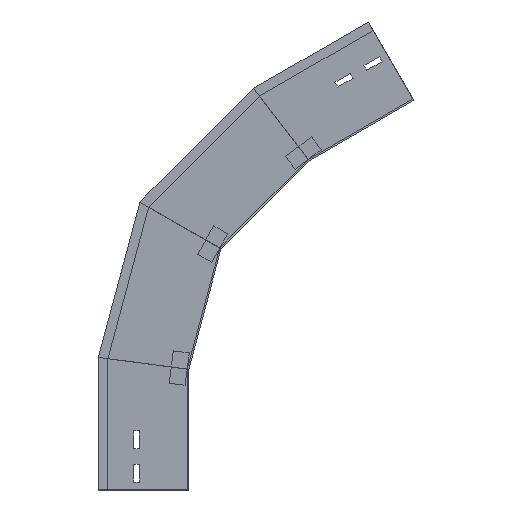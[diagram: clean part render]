
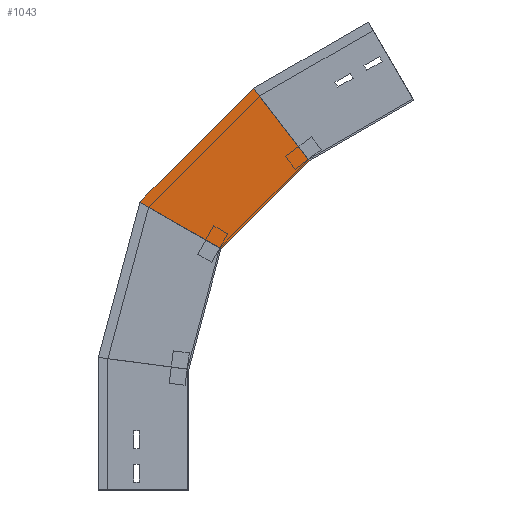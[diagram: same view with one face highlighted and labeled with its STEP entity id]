
A CAD part, left-side view. The second image highlights one B-rep face of the part: STEP entity #1043.
In plain terms, the highlighted planar face has unit normal (-1, 0, 0) as drawn and (1, 0, 0) by its records, which use the part's own axes.
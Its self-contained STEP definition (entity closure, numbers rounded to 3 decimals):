
#80 = EDGE_CURVE ( 'NONE', #1478, #1656, #587, .T. ) ;
#103 = CARTESIAN_POINT ( 'NONE',  ( 0., 112.5, 164.811 ) ) ;
#163 = ORIENTED_EDGE ( 'NONE', *, *, #1448, .F. ) ;
#185 = ORIENTED_EDGE ( 'NONE', *, *, #1487, .T. ) ;
#239 = CARTESIAN_POINT ( 'NONE',  ( 0., 112.909, 163.284 ) ) ;
#370 = VECTOR ( 'NONE', #1568, 1000. ) ;
#386 = DIRECTION ( 'NONE',  ( 0., 0., -1. ) ) ;
#403 = VERTEX_POINT ( 'NONE', #103 ) ;
#505 = CARTESIAN_POINT ( 'NONE',  ( 0., -19.411, 147.444 ) ) ;
#524 = ORIENTED_EDGE ( 'NONE', *, *, #784, .T. ) ;
#525 = CARTESIAN_POINT ( 'NONE',  ( 0., 4.243, 134.167 ) ) ;
#569 = VECTOR ( 'NONE', #995, 1000. ) ;
#587 = LINE ( 'NONE', #703, #940 ) ;
#703 = CARTESIAN_POINT ( 'NONE',  ( 0., 4.243, 134.167 ) ) ;
#732 = LINE ( 'NONE', #1666, #569 ) ;
#779 = FACE_OUTER_BOUND ( 'NONE', #865, .T. ) ;
#784 = EDGE_CURVE ( 'NONE', #1291, #1656, #732, .T. ) ;
#864 = CARTESIAN_POINT ( 'NONE',  ( 0., 60.748, 357.953 ) ) ;
#865 = EDGE_LOOP ( 'NONE', ( #185, #524, #1152, #163 ) ) ;
#892 = DIRECTION ( 'NONE',  ( 0., -0.259, 0.966 ) ) ;
#940 = VECTOR ( 'NONE', #1110, 1000. ) ;
#995 = DIRECTION ( 'NONE',  ( 0., -0.866, -0.5 ) ) ;
#1016 = LINE ( 'NONE', #505, #370 ) ;
#1017 = AXIS2_PLACEMENT_3D ( 'NONE', #525, #1020, #386 ) ;
#1020 = DIRECTION ( 'NONE',  ( 1., 0., 0. ) ) ;
#1043 = ADVANCED_FACE ( 'NONE', ( #779 ), #1570, .T. ) ;
#1099 = CARTESIAN_POINT ( 'NONE',  ( 0., -40.117, 299.719 ) ) ;
#1110 = DIRECTION ( 'NONE',  ( 0., -0.259, 0.966 ) ) ;
#1152 = ORIENTED_EDGE ( 'NONE', *, *, #80, .F. ) ;
#1178 = LINE ( 'NONE', #239, #1361 ) ;
#1291 = VERTEX_POINT ( 'NONE', #864 ) ;
#1361 = VECTOR ( 'NONE', #892, 1000. ) ;
#1412 = CARTESIAN_POINT ( 'NONE',  ( 0., 0., 150. ) ) ;
#1448 = EDGE_CURVE ( 'NONE', #403, #1478, #1016, .T. ) ;
#1478 = VERTEX_POINT ( 'NONE', #1412 ) ;
#1487 = EDGE_CURVE ( 'NONE', #403, #1291, #1178, .T. ) ;
#1568 = DIRECTION ( 'NONE',  ( 0., -0.991, -0.131 ) ) ;
#1570 = PLANE ( 'NONE',  #1017 ) ;
#1656 = VERTEX_POINT ( 'NONE', #1099 ) ;
#1666 = CARTESIAN_POINT ( 'NONE',  ( 0., -78.533, 277.539 ) ) ;
